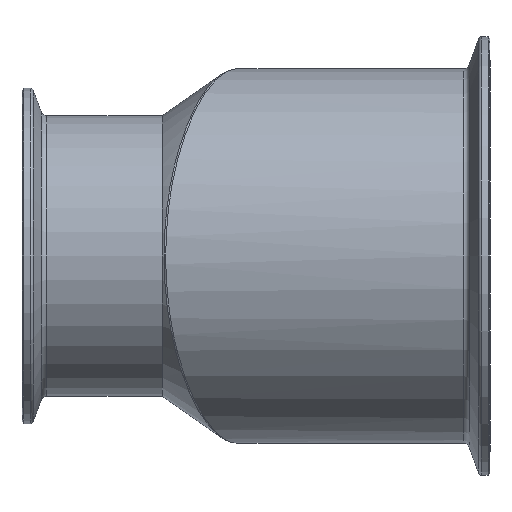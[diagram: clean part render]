
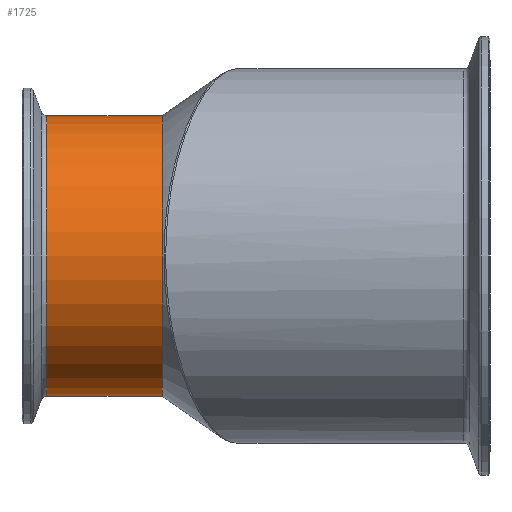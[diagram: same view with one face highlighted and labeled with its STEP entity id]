
A CAD part, front view. The second image highlights one B-rep face of the part: STEP entity #1725.
In plain terms, the highlighted cylindrical face has radius 38.1 mm (diameter 76.2 mm), a partial arc.
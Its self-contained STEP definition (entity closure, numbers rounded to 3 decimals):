
#33 = ORIENTED_EDGE ( 'NONE', *, *, #1834, .F. ) ;
#81 = DIRECTION ( 'NONE',  ( -1., 0., 0. ) ) ;
#240 = LINE ( 'NONE', #844, #1303 ) ;
#277 = VECTOR ( 'NONE', #1343, 1000. ) ;
#301 = CIRCLE ( 'NONE', #2307, 38.1 ) ;
#497 = DIRECTION ( 'NONE',  ( -1., 0., 0. ) ) ;
#498 = VERTEX_POINT ( 'NONE', #1963 ) ;
#503 = ORIENTED_EDGE ( 'NONE', *, *, #932, .F. ) ;
#543 = FACE_OUTER_BOUND ( 'NONE', #1091, .T. ) ;
#632 = ORIENTED_EDGE ( 'NONE', *, *, #1781, .T. ) ;
#680 = CARTESIAN_POINT ( 'NONE',  ( -31.401, -12.251, 0. ) ) ;
#708 = CARTESIAN_POINT ( 'NONE',  ( 6.664, -12.251, 38.1 ) ) ;
#844 = CARTESIAN_POINT ( 'NONE',  ( -31.401, -12.251, 38.1 ) ) ;
#849 = LINE ( 'NONE', #2571, #277 ) ;
#911 = AXIS2_PLACEMENT_3D ( 'NONE', #680, #2336, #1095 ) ;
#932 = EDGE_CURVE ( 'NONE', #1221, #1826, #301, .T. ) ;
#943 = CARTESIAN_POINT ( 'NONE',  ( 38.1, -12.251, -38.1 ) ) ;
#967 = CYLINDRICAL_SURFACE ( 'NONE', #911, 38.1 ) ;
#1033 = EDGE_CURVE ( 'NONE', #498, #1826, #240, .T. ) ;
#1091 = EDGE_LOOP ( 'NONE', ( #33, #632, #2706, #503 ) ) ;
#1095 = DIRECTION ( 'NONE',  ( 0., 0., 1. ) ) ;
#1221 = VERTEX_POINT ( 'NONE', #1370 ) ;
#1303 = VECTOR ( 'NONE', #2288, 1000. ) ;
#1330 = AXIS2_PLACEMENT_3D ( 'NONE', #1745, #497, #1965 ) ;
#1343 = DIRECTION ( 'NONE',  ( -1., 0., 0. ) ) ;
#1348 = CARTESIAN_POINT ( 'NONE',  ( 6.664, -12.251, 0. ) ) ;
#1370 = CARTESIAN_POINT ( 'NONE',  ( 6.664, -12.251, -38.1 ) ) ;
#1542 = DIRECTION ( 'NONE',  ( 0., 0., 1. ) ) ;
#1725 = ADVANCED_FACE ( 'NONE', ( #543 ), #967, .T. ) ;
#1745 = CARTESIAN_POINT ( 'NONE',  ( 38.1, -12.251, 0. ) ) ;
#1781 = EDGE_CURVE ( 'NONE', #1894, #498, #2138, .T. ) ;
#1826 = VERTEX_POINT ( 'NONE', #708 ) ;
#1834 = EDGE_CURVE ( 'NONE', #1894, #1221, #849, .T. ) ;
#1894 = VERTEX_POINT ( 'NONE', #943 ) ;
#1963 = CARTESIAN_POINT ( 'NONE',  ( 38.1, -12.251, 38.1 ) ) ;
#1965 = DIRECTION ( 'NONE',  ( 0., 0., 1. ) ) ;
#2138 = CIRCLE ( 'NONE', #1330, 38.1 ) ;
#2288 = DIRECTION ( 'NONE',  ( -1., 0., 0. ) ) ;
#2307 = AXIS2_PLACEMENT_3D ( 'NONE', #1348, #81, #1542 ) ;
#2336 = DIRECTION ( 'NONE',  ( -1., 0., 0. ) ) ;
#2571 = CARTESIAN_POINT ( 'NONE',  ( -31.401, -12.251, -38.1 ) ) ;
#2706 = ORIENTED_EDGE ( 'NONE', *, *, #1033, .T. ) ;
